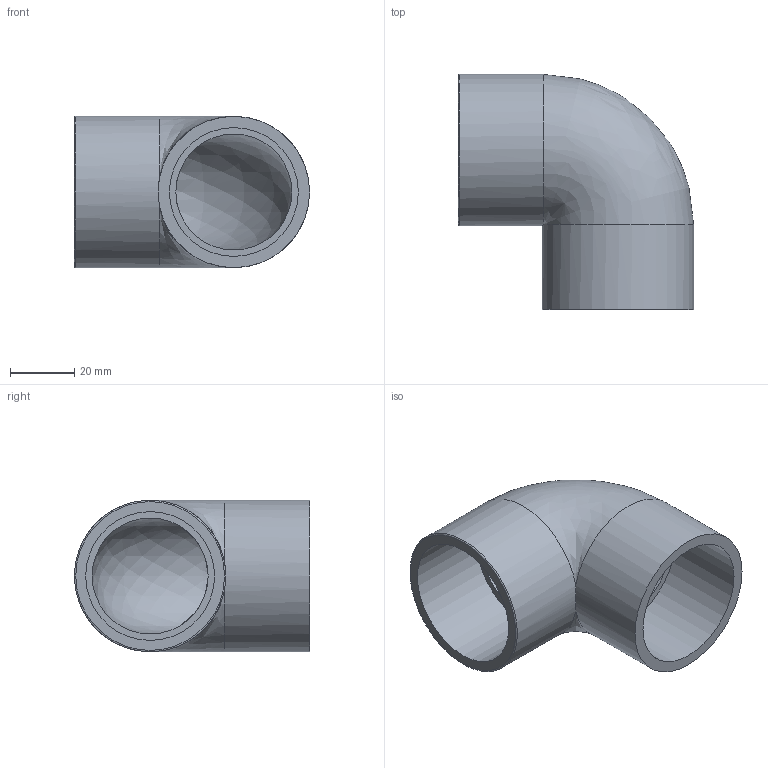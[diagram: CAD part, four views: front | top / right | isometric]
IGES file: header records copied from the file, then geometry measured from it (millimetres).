
Global section: file name: 050500040.ipt; native system: Autodesk Inventor 2015; preprocessor: unknown; author: KIM; date: 20171207.164613; units: millimetre
Bounding box: 73 x 73 x 47 mm (x, y, z)
Volume: 52846 mm3; surface area: 25288.9 mm2
Topology: 1 solids, 1 shells, 11 faces, 26 edges, 17 vertices
Faces by surface type: revolution 4, plane 4, cylinder 2, bspline 1
Full cylindrical faces by diameter (mm): 47 x2
